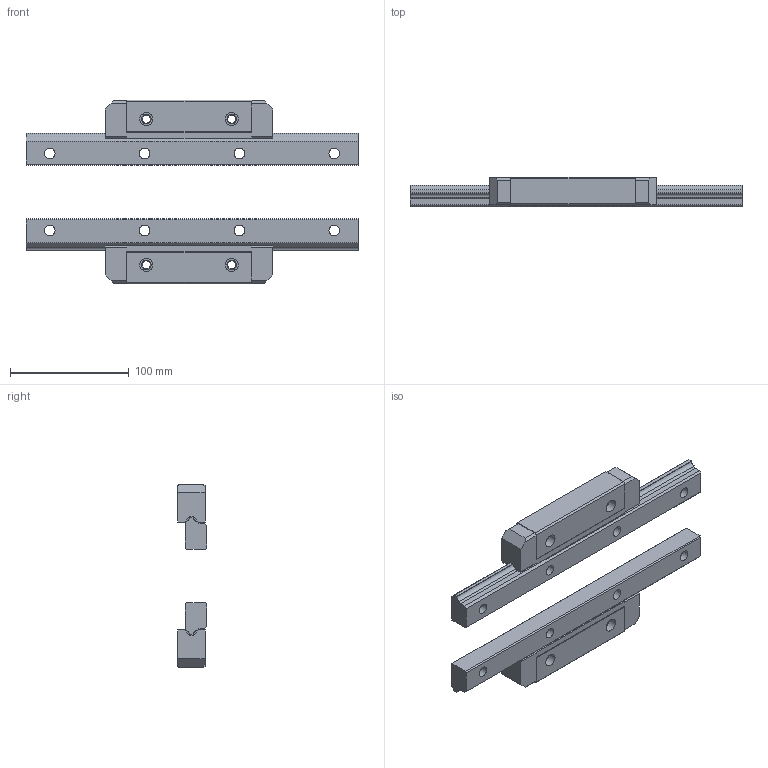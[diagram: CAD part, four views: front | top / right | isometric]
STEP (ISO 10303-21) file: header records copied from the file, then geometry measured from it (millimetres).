
FILE_DESCRIPTION(/* description */ ('STEP AP203'),/* implementation_level */ '2;1');
FILE_NAME(/* name */ 'HR2555T-280L_G20_65_69-3_0_0_0',/* time_stamp */ '2024-05-21T10:52:53+02:00',/* author */ ('License CC BY-ND 4.0'),/* organization */ ('CADENAS'),/* preprocessor_version */ 'ST-DEVELOPER v19.3',/* originating_system */ 'PARTsolutions',/* authorisation */ ' ');
FILE_SCHEMA (('CONFIG_CONTROL_DESIGN'));
Length unit declared in the file: millimetre
Products named in the file (5): HR2555T-280L_G20_65_69-3_0_0_0; HR2555T128020-Rail; HR2555T-Slider; HR2555T128020-Rail 2; HR2555T-Slider2
Assembly tree (4 placements, depth 2):
  HR2555T-280L_G20_65_69-3_0_0_0
    HR2555T128020-Rail
    HR2555T-Slider
    HR2555T128020-Rail 2
    HR2555T-Slider2
Bounding box: 280 x 25 x 155 mm (x, y, z)
Volume: 418515.9 mm3; surface area: 89831.1 mm2
Topology: 4 solids, 4 shells, 174 faces, 453 edges, 299 vertices
Faces by surface type: plane 130, cylinder 34, cone 10
Full cylindrical faces by diameter (mm): 3 x2, 6.8 x4, 9 x8, 11 x4, 14 x8
Entity records: 5257 total; most frequent: CARTESIAN_POINT 891, DIRECTION 848, ORIENTED_EDGE 828, EDGE_CURVE 414, LINE 338, VECTOR 338, VERTEX_POINT 298, AXIS2_PLACEMENT_3D 255
